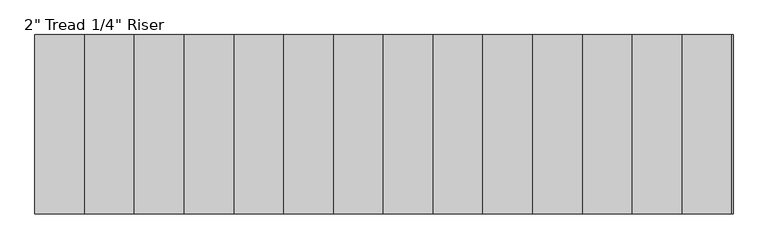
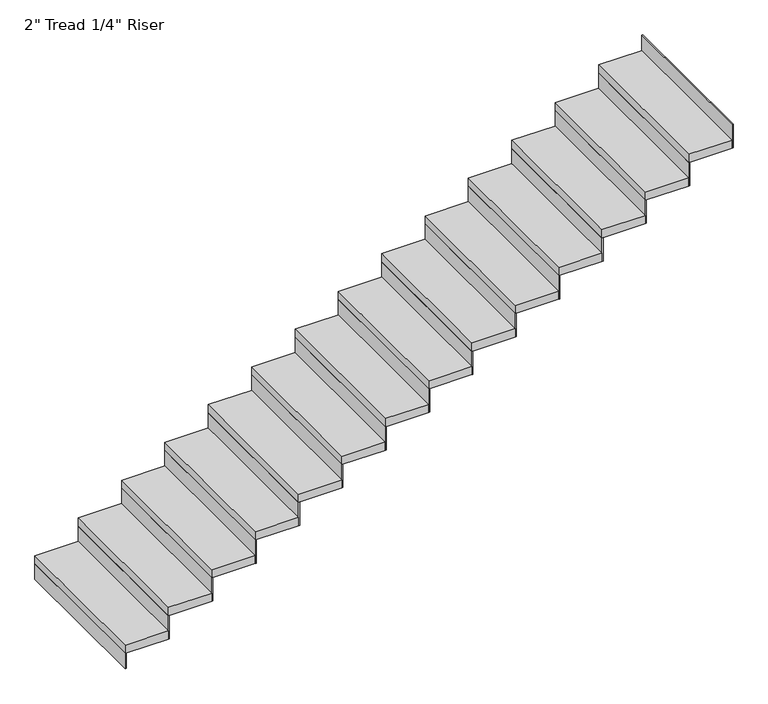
"""IFC4 building model written with IfcOpenShell, lengths in millimetres: stair flight geometry."""

from ifc_helpers import new_model, si_unit, frame, origin, origin_with_axes, place, context, project, spatial, polyline, outline, extrude, source, transform, mapped, element, save


def stair_flight_f0a76901(model_context):
    return source(origin(), model_context, "Body", "SweptSolid", [
        extrude(outline(polyline([(108856.6236551, -18859.8846057), (108850.2736551, -18859.8846057), (108850.2736551, -17945.4846057), (108856.6236551, -17945.4846057), (108856.6236551, -18859.8846057)])), origin_with_axes(), (0.0, 0.0, 1.0), 94.3428571),
        extrude(outline(polyline([(109104.2736551, -17945.4846057), (109104.2736551, -18859.8846057), (108850.2736551, -18859.8846057), (108850.2736551, -17945.4846057), (109104.2736551, -17945.4846057)])), frame((0.0, 0.0, 94.3428571), z_axis=(0.0, 0.0, 1.0), x_axis=(1.0, 0.0, 0.0)), (0.0, 0.0, 1.0), 50.8),
        extrude(outline(polyline([(109110.6236551, -18859.8846057), (109104.2736551, -18859.8846057), (109104.2736551, -17945.4846057), (109110.6236551, -17945.4846057), (109110.6236551, -18859.8846057)])), frame((0.0, 0.0, 94.3428571), z_axis=(0.0, 0.0, 1.0), x_axis=(1.0, 0.0, 0.0)), (0.0, 0.0, 1.0), 145.1428571),
        extrude(outline(polyline([(109358.2736551, -17945.4846057), (109358.2736551, -18859.8846057), (109104.2736551, -18859.8846057), (109104.2736551, -17945.4846057), (109358.2736551, -17945.4846057)])), frame((0.0, 0.0, 239.4857143), z_axis=(0.0, 0.0, 1.0), x_axis=(1.0, 0.0, 0.0)), (0.0, 0.0, 1.0), 50.8),
        extrude(outline(polyline([(109364.6236551, -18859.8846057), (109358.2736551, -18859.8846057), (109358.2736551, -17945.4846057), (109364.6236551, -17945.4846057), (109364.6236551, -18859.8846057)])), frame((0.0, 0.0, 239.4857143), z_axis=(0.0, 0.0, 1.0), x_axis=(1.0, 0.0, 0.0)), (0.0, 0.0, 1.0), 145.1428571),
        extrude(outline(polyline([(109612.2736551, -17945.4846057), (109612.2736551, -18859.8846057), (109358.2736551, -18859.8846057), (109358.2736551, -17945.4846057), (109612.2736551, -17945.4846057)])), frame((0.0, 0.0, 384.6285714), z_axis=(0.0, 0.0, 1.0), x_axis=(1.0, 0.0, 0.0)), (0.0, 0.0, 1.0), 50.8),
        extrude(outline(polyline([(109618.6236551, -18859.8846057), (109612.2736551, -18859.8846057), (109612.2736551, -17945.4846057), (109618.6236551, -17945.4846057), (109618.6236551, -18859.8846057)])), frame((0.0, 0.0, 384.6285714), z_axis=(0.0, 0.0, 1.0), x_axis=(1.0, 0.0, 0.0)), (0.0, 0.0, 1.0), 145.1428571),
        extrude(outline(polyline([(109866.2736551, -17945.4846057), (109866.2736551, -18859.8846057), (109612.2736551, -18859.8846057), (109612.2736551, -17945.4846057), (109866.2736551, -17945.4846057)])), frame((0.0, 0.0, 529.7714286), z_axis=(0.0, 0.0, 1.0), x_axis=(1.0, 0.0, 0.0)), (0.0, 0.0, 1.0), 50.8),
        extrude(outline(polyline([(109872.6236551, -18859.8846057), (109866.2736551, -18859.8846057), (109866.2736551, -17945.4846057), (109872.6236551, -17945.4846057), (109872.6236551, -18859.8846057)])), frame((0.0, 0.0, 529.7714286), z_axis=(0.0, 0.0, 1.0), x_axis=(1.0, 0.0, 0.0)), (0.0, 0.0, 1.0), 145.1428571),
        extrude(outline(polyline([(110120.2736551, -17945.4846057), (110120.2736551, -18859.8846057), (109866.2736551, -18859.8846057), (109866.2736551, -17945.4846057), (110120.2736551, -17945.4846057)])), frame((0.0, 0.0, 674.9142857), z_axis=(0.0, 0.0, 1.0), x_axis=(1.0, 0.0, 0.0)), (0.0, 0.0, 1.0), 50.8),
        extrude(outline(polyline([(110126.6236551, -18859.8846057), (110120.2736551, -18859.8846057), (110120.2736551, -17945.4846057), (110126.6236551, -17945.4846057), (110126.6236551, -18859.8846057)])), frame((0.0, 0.0, 674.9142857), z_axis=(0.0, 0.0, 1.0), x_axis=(1.0, 0.0, 0.0)), (0.0, 0.0, 1.0), 145.1428571),
        extrude(outline(polyline([(110374.2736551, -17945.4846057), (110374.2736551, -18859.8846057), (110120.2736551, -18859.8846057), (110120.2736551, -17945.4846057), (110374.2736551, -17945.4846057)])), frame((0.0, 0.0, 820.0571429), z_axis=(0.0, 0.0, 1.0), x_axis=(1.0, 0.0, 0.0)), (0.0, 0.0, 1.0), 50.8),
        extrude(outline(polyline([(110380.6236551, -18859.8846057), (110374.2736551, -18859.8846057), (110374.2736551, -17945.4846057), (110380.6236551, -17945.4846057), (110380.6236551, -18859.8846057)])), frame((0.0, 0.0, 820.0571429), z_axis=(0.0, 0.0, 1.0), x_axis=(1.0, 0.0, 0.0)), (0.0, 0.0, 1.0), 145.1428571),
        extrude(outline(polyline([(110628.2736551, -17945.4846057), (110628.2736551, -18859.8846057), (110374.2736551, -18859.8846057), (110374.2736551, -17945.4846057), (110628.2736551, -17945.4846057)])), frame((0.0, 0.0, 965.2), z_axis=(0.0, 0.0, 1.0), x_axis=(1.0, 0.0, 0.0)), (0.0, 0.0, 1.0), 50.8),
        extrude(outline(polyline([(110634.6236551, -18859.8846057), (110628.2736551, -18859.8846057), (110628.2736551, -17945.4846057), (110634.6236551, -17945.4846057), (110634.6236551, -18859.8846057)])), frame((0.0, 0.0, 965.2), z_axis=(0.0, 0.0, 1.0), x_axis=(1.0, 0.0, 0.0)), (0.0, 0.0, 1.0), 145.1428571),
        extrude(outline(polyline([(110882.2736551, -17945.4846057), (110882.2736551, -18859.8846057), (110628.2736551, -18859.8846057), (110628.2736551, -17945.4846057), (110882.2736551, -17945.4846057)])), frame((0.0, 0.0, 1110.3428571), z_axis=(0.0, 0.0, 1.0), x_axis=(1.0, 0.0, 0.0)), (0.0, 0.0, 1.0), 50.8),
        extrude(outline(polyline([(110888.6236551, -18859.8846057), (110882.2736551, -18859.8846057), (110882.2736551, -17945.4846057), (110888.6236551, -17945.4846057), (110888.6236551, -18859.8846057)])), frame((0.0, 0.0, 1110.3428571), z_axis=(0.0, 0.0, 1.0), x_axis=(1.0, 0.0, 0.0)), (0.0, 0.0, 1.0), 145.1428571),
        extrude(outline(polyline([(111136.2736551, -17945.4846057), (111136.2736551, -18859.8846057), (110882.2736551, -18859.8846057), (110882.2736551, -17945.4846057), (111136.2736551, -17945.4846057)])), frame((0.0, 0.0, 1255.4857143), z_axis=(0.0, 0.0, 1.0), x_axis=(1.0, 0.0, 0.0)), (0.0, 0.0, 1.0), 50.8),
        extrude(outline(polyline([(111142.6236551, -18859.8846057), (111136.2736551, -18859.8846057), (111136.2736551, -17945.4846057), (111142.6236551, -17945.4846057), (111142.6236551, -18859.8846057)])), frame((0.0, 0.0, 1255.4857143), z_axis=(0.0, 0.0, 1.0), x_axis=(1.0, 0.0, 0.0)), (0.0, 0.0, 1.0), 145.1428571),
        extrude(outline(polyline([(111390.2736551, -17945.4846057), (111390.2736551, -18859.8846057), (111136.2736551, -18859.8846057), (111136.2736551, -17945.4846057), (111390.2736551, -17945.4846057)])), frame((0.0, 0.0, 1400.6285714), z_axis=(0.0, 0.0, 1.0), x_axis=(1.0, 0.0, 0.0)), (0.0, 0.0, 1.0), 50.8),
        extrude(outline(polyline([(111396.6236551, -18859.8846057), (111390.2736551, -18859.8846057), (111390.2736551, -17945.4846057), (111396.6236551, -17945.4846057), (111396.6236551, -18859.8846057)])), frame((0.0, 0.0, 1400.6285714), z_axis=(0.0, 0.0, 1.0), x_axis=(1.0, 0.0, 0.0)), (0.0, 0.0, 1.0), 145.1428571),
        extrude(outline(polyline([(111644.2736551, -17945.4846057), (111644.2736551, -18859.8846057), (111390.2736551, -18859.8846057), (111390.2736551, -17945.4846057), (111644.2736551, -17945.4846057)])), frame((0.0, 0.0, 1545.7714286), z_axis=(0.0, 0.0, 1.0), x_axis=(1.0, 0.0, 0.0)), (0.0, 0.0, 1.0), 50.8),
        extrude(outline(polyline([(111650.6236551, -18859.8846057), (111644.2736551, -18859.8846057), (111644.2736551, -17945.4846057), (111650.6236551, -17945.4846057), (111650.6236551, -18859.8846057)])), frame((0.0, 0.0, 1545.7714286), z_axis=(0.0, 0.0, 1.0), x_axis=(1.0, 0.0, 0.0)), (0.0, 0.0, 1.0), 145.1428571),
        extrude(outline(polyline([(111898.2736551, -17945.4846057), (111898.2736551, -18859.8846057), (111644.2736551, -18859.8846057), (111644.2736551, -17945.4846057), (111898.2736551, -17945.4846057)])), frame((0.0, 0.0, 1690.9142857), z_axis=(0.0, 0.0, 1.0), x_axis=(1.0, 0.0, 0.0)), (0.0, 0.0, 1.0), 50.8),
        extrude(outline(polyline([(111904.6236551, -18859.8846057), (111898.2736551, -18859.8846057), (111898.2736551, -17945.4846057), (111904.6236551, -17945.4846057), (111904.6236551, -18859.8846057)])), frame((0.0, 0.0, 1690.9142857), z_axis=(0.0, 0.0, 1.0), x_axis=(1.0, 0.0, 0.0)), (0.0, 0.0, 1.0), 145.1428571),
        extrude(outline(polyline([(112152.2736551, -17945.4846057), (112152.2736551, -18859.8846057), (111898.2736551, -18859.8846057), (111898.2736551, -17945.4846057), (112152.2736551, -17945.4846057)])), frame((0.0, 0.0, 1836.0571429), z_axis=(0.0, 0.0, 1.0), x_axis=(1.0, 0.0, 0.0)), (0.0, 0.0, 1.0), 50.8),
        extrude(outline(polyline([(112158.6236551, -18859.8846057), (112152.2736551, -18859.8846057), (112152.2736551, -17945.4846057), (112158.6236551, -17945.4846057), (112158.6236551, -18859.8846057)])), frame((0.0, 0.0, 1836.0571429), z_axis=(0.0, 0.0, 1.0), x_axis=(1.0, 0.0, 0.0)), (0.0, 0.0, 1.0), 145.1428571),
        extrude(outline(polyline([(112412.6236551, -18859.8846057), (112406.2736551, -18859.8846057), (112406.2736551, -17945.4846057), (112412.6236551, -17945.4846057), (112412.6236551, -18859.8846057)])), frame((0.0, 0.0, 1981.2), z_axis=(0.0, 0.0, 1.0), x_axis=(1.0, 0.0, 0.0)), (0.0, 0.0, 1.0), 145.1428571),
        extrude(outline(polyline([(112406.2736551, -17945.4846057), (112406.2736551, -18859.8846057), (112152.2736551, -18859.8846057), (112152.2736551, -17945.4846057), (112406.2736551, -17945.4846057)])), frame((0.0, 0.0, 1981.2), z_axis=(0.0, 0.0, 1.0), x_axis=(1.0, 0.0, 0.0)), (0.0, 0.0, 1.0), 50.8),
    ])


if __name__ == "__main__":
    model = new_model("IFC4")
    model_context = context("Model", 3, world=origin())
    ifc_project = project(units=[si_unit("LENGTHUNIT", "METRE", prefix="MILLI")], contexts=[model_context])
    site = spatial("IfcSite", under=ifc_project)
    building = spatial("IfcBuilding", under=site)
    placement = place(None, origin())
    stair_flight_shape = stair_flight_f0a76901(model_context)
    element("IfcStairFlight", 1, ObjectType="2\" Tread 1/4\" Riser", at=placement, inside=building, context=model_context, shape_type="MappedRepresentation", body=[
        mapped(stair_flight_shape, transform((0.0, 0.0, 0.0), x_axis=(1.0, 0.0, 0.0), y_axis=(0.0, 1.0, 0.0), z_axis=(0.0, 0.0, 1.0))),
    ])
    save(model, "model.ifc")
